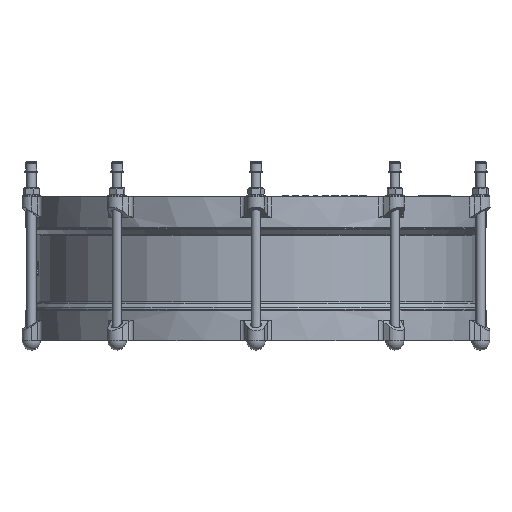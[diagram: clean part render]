
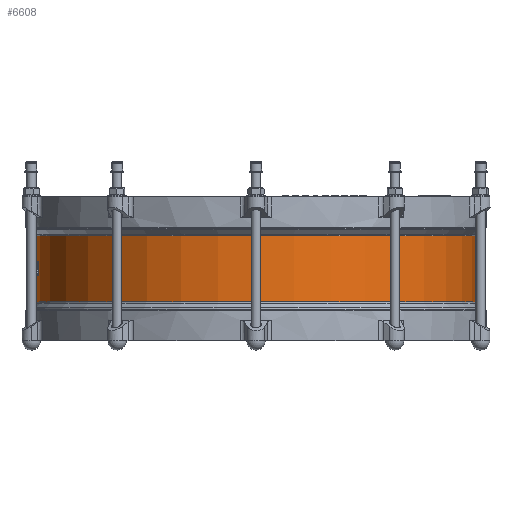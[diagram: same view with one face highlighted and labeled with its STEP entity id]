
A CAD part, left-side view. The second image highlights one B-rep face of the part: STEP entity #6608.
In plain terms, the highlighted cylindrical face has radius 332 mm (diameter 664 mm), a full revolution.
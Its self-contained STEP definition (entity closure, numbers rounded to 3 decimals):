
#6608=ADVANCED_FACE('',(#12145,#12147),#12149,.T.);
#12145=FACE_OUTER_BOUND('',#12146,.T.);
#12146=EDGE_LOOP('',(#18145));
#12147=FACE_OUTER_BOUND('',#12148,.T.);
#12148=EDGE_LOOP('',(#18146));
#12149=CYLINDRICAL_SURFACE('',#12150,332.);
#12150=AXIS2_PLACEMENT_3D('',#12151,#12152,#12153);
#12151=CARTESIAN_POINT('',(0.,0.,51.3));
#12152=DIRECTION('',(0.,0.,-1.));
#12153=DIRECTION('',(0.,1.,0.));
#18145=ORIENTED_EDGE('',*,*,#20651,.T.);
#18146=ORIENTED_EDGE('',*,*,#20652,.F.);
#20651=EDGE_CURVE('',#24191,#24191,#24192,.T.);
#20652=EDGE_CURVE('',#24193,#24193,#24194,.T.);
#24191=VERTEX_POINT('',#37816);
#24192=CIRCLE('',#37817,332.);
#24193=VERTEX_POINT('',#37821);
#24194=CIRCLE('',#37822,332.);
#37816=CARTESIAN_POINT('',(0.,332.,49.851));
#37817=AXIS2_PLACEMENT_3D('',#37818,#37819,#37820);
#37818=CARTESIAN_POINT('',(0.,0.,49.851));
#37819=DIRECTION('',(0.,0.,-1.));
#37820=DIRECTION('',(0.,1.,0.));
#37821=CARTESIAN_POINT('',(0.,332.,-49.851));
#37822=AXIS2_PLACEMENT_3D('',#37823,#37824,#37825);
#37823=CARTESIAN_POINT('',(0.,0.,-49.851));
#37824=DIRECTION('',(0.,0.,-1.));
#37825=DIRECTION('',(0.,1.,0.));
